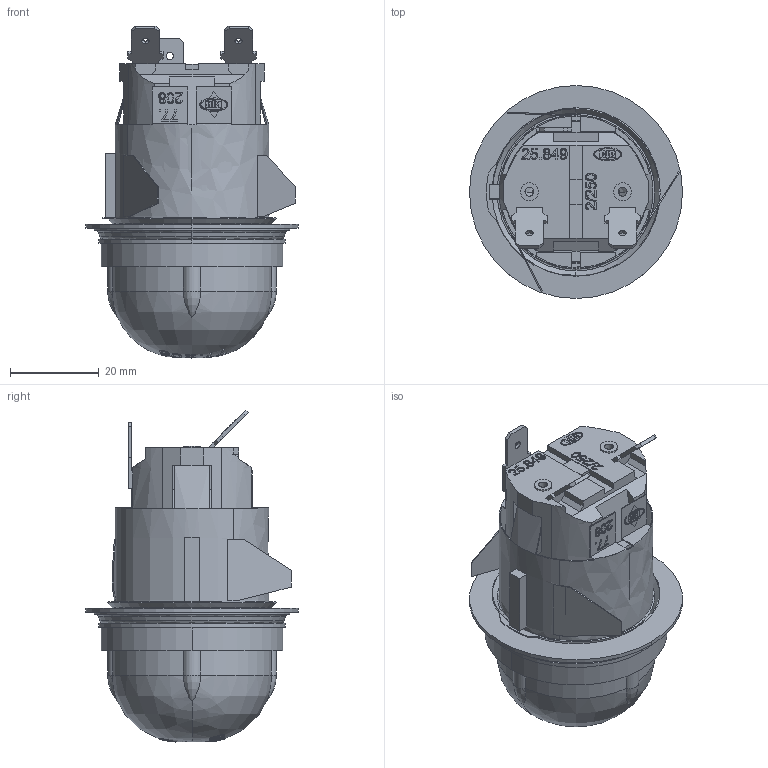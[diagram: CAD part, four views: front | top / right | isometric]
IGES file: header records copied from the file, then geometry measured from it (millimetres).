
Global section: file name: C:\CoreTechnologie\3D-In/011YV20Y04.igs; native system: CT CoreTechnologie 3D Evolution; preprocessor: 2006; author: ; organization: EÑ_; date: 1210626.094634; units: millimetre
Bounding box: 48 x 48 x 74.82 mm (x, y, z)
Volume: 36522.9 mm3; surface area: 27543.8 mm2
Topology: 7 solids, 7 shells, 745 faces, 1865 edges, 1205 vertices
Faces by surface type: plane 456, revolution 213, bspline 76
